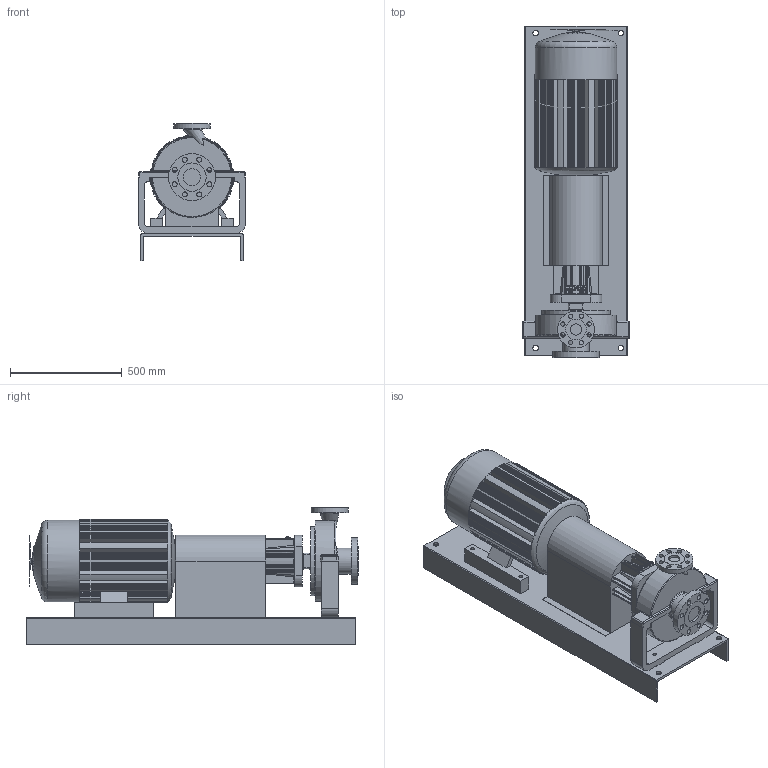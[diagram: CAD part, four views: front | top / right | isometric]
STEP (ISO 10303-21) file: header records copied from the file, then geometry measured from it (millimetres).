
FILE_DESCRIPTION(/* description */ ('Unknown'),/* implementation_level */ '2;1');
FILE_NAME(/* name */ 'CTP 2x3x10 326TS',/* time_stamp */ '2016-02-18T11:10:55+01:00',/* author */ ('Unknown'),/* organization */ ('Unknown'),/* preprocessor_version */ 'ST-DEVELOPER v16',/* originating_system */ 'DEX',/* authorisation */ $);
FILE_SCHEMA (('AP203_CONFIGURATION_CONTROLLED_3D_DESIGN_OF_MECHANICAL_PARTS_AND_ASSEMBLIES_MIM_LF { 1 0 10303 203 3 1 4 }','AUTOMOTIVE_DESIGN {1 0 10303 214 3 1 1}'));
Products named in the file (1): Maatschets3D CTP
Bounding box: 476.25 x 1485.9 x 615.95 mm (x, y, z)
Volume: 101503709.7 mm3; surface area: 6716441.2 mm2
Topology: 1 solids, 1 shells, 1643 faces, 4192 edges, 2507 vertices
Faces by surface type: plane 1150, cylinder 299, bspline 139, sphere 31, torus 22, cone 2
Full cylindrical faces by diameter (mm): 16 x2, 16.764 x4, 19.05 x8, 22.225 x8, 25 x4, 50.8 x1, 57.625 x1, 76.2 x1, 92.075 x1, 117 x1, 127 x1, 165.1 x1, 209.55 x1, 235 x1, 280 x1, 309 x1, 361 x1, 365.76 x1
Entity records: 66695 total; most frequent: CARTESIAN_POINT 16423, ORIENTED_EDGE 8108, DIRECTION 8015, EDGE_CURVE 4054, AXIS2_PLACEMENT_3D 2718, LINE 2579, VECTOR 2579, VERTEX_POINT 2477
